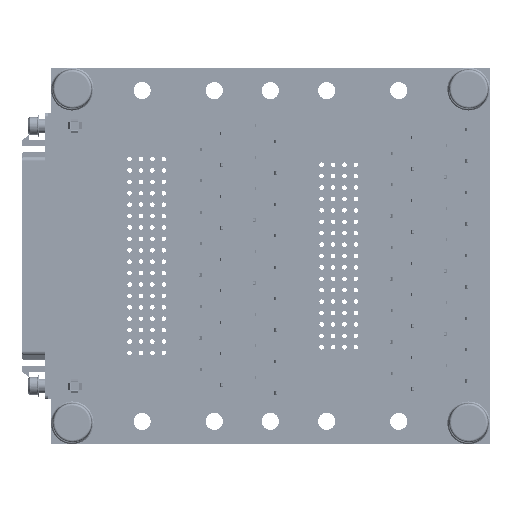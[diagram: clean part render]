
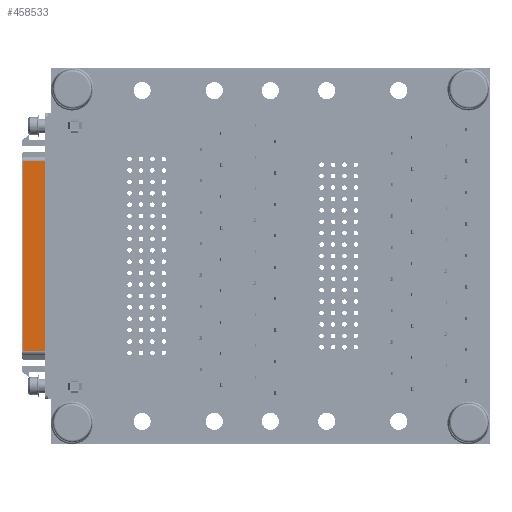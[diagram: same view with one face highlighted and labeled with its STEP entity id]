
A CAD part, front view. The second image highlights one B-rep face of the part: STEP entity #458533.
In plain terms, the highlighted planar face has unit normal (0, -1, 0).
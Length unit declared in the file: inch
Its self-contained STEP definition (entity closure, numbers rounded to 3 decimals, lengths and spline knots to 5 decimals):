
#12061 = LINE ( 'NONE', #386977, #255926 ) ;
#13386 = ORIENTED_EDGE ( 'NONE', *, *, #286332, .T. ) ;
#23040 = VECTOR ( 'NONE', #439195, 39.37008 ) ;
#33473 = VERTEX_POINT ( 'NONE', #46191 ) ;
#45990 = CARTESIAN_POINT ( 'NONE',  ( -0.83149, -0.109, -0.004 ) ) ;
#46191 = CARTESIAN_POINT ( 'NONE',  ( -0.83149, -0.109, -0.004 ) ) ;
#53746 = DIRECTION ( 'NONE',  ( -1., 0., 0. ) ) ;
#87214 = VECTOR ( 'NONE', #53746, 39.37008 ) ;
#90813 = PLANE ( 'NONE',  #417805 ) ;
#103811 = DIRECTION ( 'NONE',  ( 0., 0., -1. ) ) ;
#109380 = LINE ( 'NONE', #228702, #87214 ) ;
#124813 = DIRECTION ( 'NONE',  ( 0., 0., -1. ) ) ;
#130105 = ORIENTED_EDGE ( 'NONE', *, *, #178649, .T. ) ;
#144268 = VERTEX_POINT ( 'NONE', #199454 ) ;
#178649 = EDGE_CURVE ( 'NONE', #144268, #190232, #245287, .T. ) ;
#190232 = VERTEX_POINT ( 'NONE', #330581 ) ;
#199104 = CARTESIAN_POINT ( 'NONE',  ( -0.83149, -0.109, 0. ) ) ;
#199454 = CARTESIAN_POINT ( 'NONE',  ( 0.83149, -0.109, -0.197 ) ) ;
#211967 = VECTOR ( 'NONE', #450545, 39.37008 ) ;
#228702 = CARTESIAN_POINT ( 'NONE',  ( -1.2575, -0.109, -0.197 ) ) ;
#230319 = CARTESIAN_POINT ( 'NONE',  ( -0.83149, -0.109, -0.197 ) ) ;
#237279 = ORIENTED_EDGE ( 'NONE', *, *, #325141, .T. ) ;
#245287 = LINE ( 'NONE', #417974, #211967 ) ;
#255926 = VECTOR ( 'NONE', #103811, 39.37008 ) ;
#286332 = EDGE_CURVE ( 'NONE', #33473, #429939, #12061, .T. ) ;
#325141 = EDGE_CURVE ( 'NONE', #190232, #33473, #449630, .T. ) ;
#330581 = CARTESIAN_POINT ( 'NONE',  ( 0.83149, -0.109, -0.004 ) ) ;
#349999 = EDGE_LOOP ( 'NONE', ( #130105, #237279, #13386, #351829 ) ) ;
#351829 = ORIENTED_EDGE ( 'NONE', *, *, #426483, .F. ) ;
#386977 = CARTESIAN_POINT ( 'NONE',  ( -0.83149, -0.109, 0. ) ) ;
#417805 = AXIS2_PLACEMENT_3D ( 'NONE', #199104, #446860, #124813 ) ;
#417974 = CARTESIAN_POINT ( 'NONE',  ( 0.83149, -0.109, 0. ) ) ;
#426483 = EDGE_CURVE ( 'NONE', #144268, #429939, #109380, .T. ) ;
#429939 = VERTEX_POINT ( 'NONE', #230319 ) ;
#439195 = DIRECTION ( 'NONE',  ( -1., 0., 0. ) ) ;
#440856 = FACE_OUTER_BOUND ( 'NONE', #349999, .T. ) ;
#446860 = DIRECTION ( 'NONE',  ( 0., -1., 0. ) ) ;
#449630 = LINE ( 'NONE', #45990, #23040 ) ;
#450545 = DIRECTION ( 'NONE',  ( 0., 0., 1. ) ) ;
#458533 = ADVANCED_FACE ( 'NONE', ( #440856 ), #90813, .T. ) ;
